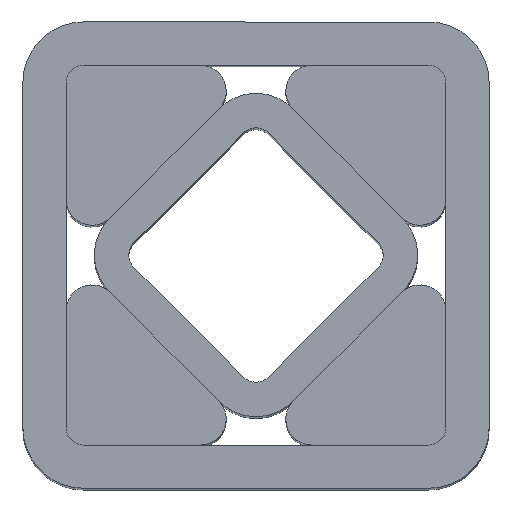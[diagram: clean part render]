
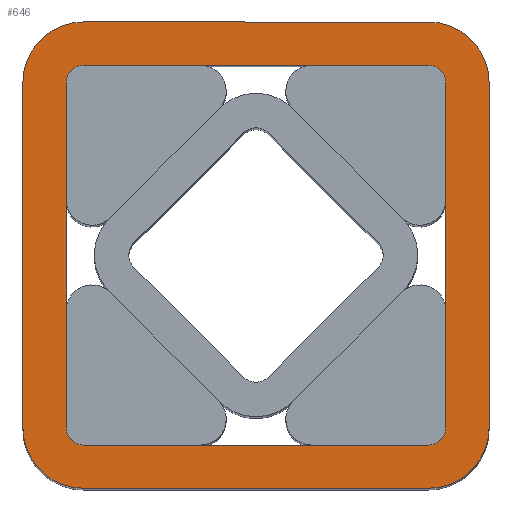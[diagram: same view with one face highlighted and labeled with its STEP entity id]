
A CAD part, top view. The second image highlights one B-rep face of the part: STEP entity #646.
In plain terms, the highlighted planar face has unit normal (0, 0, 1).
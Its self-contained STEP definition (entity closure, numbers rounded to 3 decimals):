
#88=CARTESIAN_POINT('',(-11.,10.,60.0));
#89=VERTEX_POINT('',#88);
#90=CARTESIAN_POINT('',(-10.,11.,60.0));
#91=VERTEX_POINT('',#90);
#92=CARTESIAN_POINT('',(-10.,10.,60.0));
#93=DIRECTION('',(0.0,0.0,-1.));
#94=DIRECTION('',(0.,1.,0.0));
#95=AXIS2_PLACEMENT_3D('',#92,#93,#94);
#96=CIRCLE('',#95,1.0);
#97=EDGE_CURVE('',#89,#91,#96,.T.);
#130=CARTESIAN_POINT('',(10.,11.,60.0));
#131=VERTEX_POINT('',#130);
#132=CARTESIAN_POINT('',(-10.,11.,60.0));
#133=DIRECTION('',(1.0,0.0,0.0));
#134=VECTOR('',#133,20.);
#135=LINE('',#132,#134);
#136=EDGE_CURVE('',#91,#131,#135,.T.);
#161=CARTESIAN_POINT('',(11.,10.,60.0));
#162=VERTEX_POINT('',#161);
#163=CARTESIAN_POINT('',(10.,10.,60.0));
#164=DIRECTION('',(0.0,0.0,-1.));
#165=DIRECTION('',(1.,0.,0.0));
#166=AXIS2_PLACEMENT_3D('',#163,#164,#165);
#167=CIRCLE('',#166,1.0);
#168=EDGE_CURVE('',#131,#162,#167,.T.);
#194=CARTESIAN_POINT('',(11.,-10.,60.0));
#195=VERTEX_POINT('',#194);
#196=CARTESIAN_POINT('',(11.,10.,60.0));
#197=DIRECTION('',(0.0,-1.0,0.0));
#198=VECTOR('',#197,20.);
#199=LINE('',#196,#198);
#200=EDGE_CURVE('',#162,#195,#199,.T.);
#225=CARTESIAN_POINT('',(10.,-11.,60.0));
#226=VERTEX_POINT('',#225);
#227=CARTESIAN_POINT('',(10.,-10.,60.0));
#228=DIRECTION('',(0.0,0.0,-1.));
#229=DIRECTION('',(0.,-1.,0.0));
#230=AXIS2_PLACEMENT_3D('',#227,#228,#229);
#231=CIRCLE('',#230,1.0);
#232=EDGE_CURVE('',#195,#226,#231,.T.);
#258=CARTESIAN_POINT('',(-10.,-11.,60.0));
#259=VERTEX_POINT('',#258);
#260=CARTESIAN_POINT('',(10.,-11.,60.0));
#261=DIRECTION('',(-1.0,0.0,0.0));
#262=VECTOR('',#261,20.);
#263=LINE('',#260,#262);
#264=EDGE_CURVE('',#226,#259,#263,.T.);
#289=CARTESIAN_POINT('',(-11.,-10.,60.0));
#290=VERTEX_POINT('',#289);
#291=CARTESIAN_POINT('',(-10.,-10.,60.0));
#292=DIRECTION('',(0.0,0.0,-1.));
#293=DIRECTION('',(-1.,0.,0.0));
#294=AXIS2_PLACEMENT_3D('',#291,#292,#293);
#295=CIRCLE('',#294,1.0);
#296=EDGE_CURVE('',#259,#290,#295,.T.);
#322=CARTESIAN_POINT('',(-11.,-10.,60.0));
#323=DIRECTION('',(0.0,1.0,0.0));
#324=VECTOR('',#323,20.);
#325=LINE('',#322,#324);
#326=EDGE_CURVE('',#290,#89,#325,.T.);
#344=CARTESIAN_POINT('',(13.5,-10.,60.0));
#345=VERTEX_POINT('',#344);
#346=CARTESIAN_POINT('',(10.,-13.5,60.0));
#347=VERTEX_POINT('',#346);
#348=CARTESIAN_POINT('',(10.,-10.,60.0));
#349=DIRECTION('',(0.0,0.0,-1.));
#350=DIRECTION('',(0.,-1.,0.0));
#351=AXIS2_PLACEMENT_3D('',#348,#349,#350);
#352=CIRCLE('',#351,3.5);
#353=EDGE_CURVE('',#345,#347,#352,.T.);
#386=CARTESIAN_POINT('',(-10.,-13.5,60.0));
#387=VERTEX_POINT('',#386);
#388=CARTESIAN_POINT('',(10.,-13.5,60.0));
#389=DIRECTION('',(-1.0,0.0,0.0));
#390=VECTOR('',#389,20.);
#391=LINE('',#388,#390);
#392=EDGE_CURVE('',#347,#387,#391,.T.);
#417=CARTESIAN_POINT('',(-13.5,-10.,60.0));
#418=VERTEX_POINT('',#417);
#419=CARTESIAN_POINT('',(-10.,-10.,60.0));
#420=DIRECTION('',(0.0,0.0,-1.));
#421=DIRECTION('',(-1.,0.,0.0));
#422=AXIS2_PLACEMENT_3D('',#419,#420,#421);
#423=CIRCLE('',#422,3.5);
#424=EDGE_CURVE('',#387,#418,#423,.T.);
#450=CARTESIAN_POINT('',(-13.5,10.,60.0));
#451=VERTEX_POINT('',#450);
#452=CARTESIAN_POINT('',(-13.5,-10.,60.0));
#453=DIRECTION('',(0.0,1.0,0.0));
#454=VECTOR('',#453,20.);
#455=LINE('',#452,#454);
#456=EDGE_CURVE('',#418,#451,#455,.T.);
#481=CARTESIAN_POINT('',(-10.,13.5,60.0));
#482=VERTEX_POINT('',#481);
#483=CARTESIAN_POINT('',(-10.,10.,60.0));
#484=DIRECTION('',(0.0,0.0,-1.));
#485=DIRECTION('',(0.,1.,0.0));
#486=AXIS2_PLACEMENT_3D('',#483,#484,#485);
#487=CIRCLE('',#486,3.5);
#488=EDGE_CURVE('',#451,#482,#487,.T.);
#514=CARTESIAN_POINT('',(10.,13.5,60.0));
#515=VERTEX_POINT('',#514);
#516=CARTESIAN_POINT('',(-10.,13.5,60.0));
#517=DIRECTION('',(1.0,0.0,0.0));
#518=VECTOR('',#517,20.);
#519=LINE('',#516,#518);
#520=EDGE_CURVE('',#482,#515,#519,.T.);
#545=CARTESIAN_POINT('',(13.5,10.,60.0));
#546=VERTEX_POINT('',#545);
#547=CARTESIAN_POINT('',(10.,10.,60.0));
#548=DIRECTION('',(0.0,0.0,-1.));
#549=DIRECTION('',(1.,0.,0.0));
#550=AXIS2_PLACEMENT_3D('',#547,#548,#549);
#551=CIRCLE('',#550,3.5);
#552=EDGE_CURVE('',#515,#546,#551,.T.);
#578=CARTESIAN_POINT('',(13.5,10.,60.0));
#579=DIRECTION('',(0.0,-1.0,0.0));
#580=VECTOR('',#579,20.);
#581=LINE('',#578,#580);
#582=EDGE_CURVE('',#546,#345,#581,.T.);
#621=CARTESIAN_POINT('',(0.,0.,60.0));
#622=DIRECTION('',(0.0,0.0,1.0));
#623=DIRECTION('',(1.0,0.0,0.0));
#624=AXIS2_PLACEMENT_3D('',#621,#622,#623);
#625=PLANE('',#624);
#626=ORIENTED_EDGE('',*,*,#353,.F.);
#627=ORIENTED_EDGE('',*,*,#582,.F.);
#628=ORIENTED_EDGE('',*,*,#552,.F.);
#629=ORIENTED_EDGE('',*,*,#520,.F.);
#630=ORIENTED_EDGE('',*,*,#488,.F.);
#631=ORIENTED_EDGE('',*,*,#456,.F.);
#632=ORIENTED_EDGE('',*,*,#424,.F.);
#633=ORIENTED_EDGE('',*,*,#392,.F.);
#634=EDGE_LOOP('',(#626,#627,#628,#629,#630,#631,#632,#633));
#635=FACE_OUTER_BOUND('',#634,.T.);
#636=ORIENTED_EDGE('',*,*,#97,.T.);
#637=ORIENTED_EDGE('',*,*,#136,.T.);
#638=ORIENTED_EDGE('',*,*,#168,.T.);
#639=ORIENTED_EDGE('',*,*,#200,.T.);
#640=ORIENTED_EDGE('',*,*,#232,.T.);
#641=ORIENTED_EDGE('',*,*,#264,.T.);
#642=ORIENTED_EDGE('',*,*,#296,.T.);
#643=ORIENTED_EDGE('',*,*,#326,.T.);
#644=EDGE_LOOP('',(#636,#637,#638,#639,#640,#641,#642,#643));
#645=FACE_BOUND('',#644,.T.);
#646=ADVANCED_FACE('',(#635,#645),#625,.T.);
